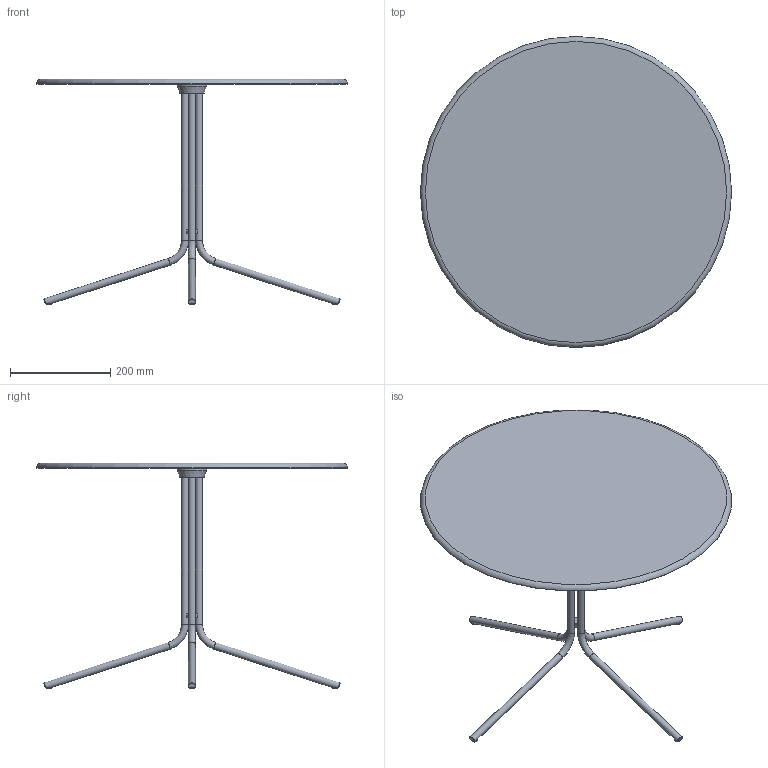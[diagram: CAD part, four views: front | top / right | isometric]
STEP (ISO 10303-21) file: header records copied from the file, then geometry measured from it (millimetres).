
FILE_DESCRIPTION((''),'2;1');
FILE_NAME('C:\AutodeskVault\AreaLavoro\Progetti\SoVeT Italia\2. Tavolini_Coffee tables\Genius\Genius Round\Web file\Genius Round Web\P4706.stp','2012-06-19T12:03:37',('Gianluca'),('So.Ve.T. s.r.l.'),'Autodesk Inventor 2013','Autodesk Inventor 2013','IL PROGETTO E'' DI ESCLUSIVA PROPRIETA'' DELLA SO.VE.T. srl. E'' VIETATA OGNI RIPRODUZIONE TOTALE O PARZIALE E QUALSIASI UTILIZZO NON AUTORIZZATO. ');
FILE_SCHEMA(('AUTOMOTIVE_DESIGN { 1 0 10303 214 1 1 1 1 }'));
Length unit declared in the file: millimetre
Products named in the file (1): P4706 LCTR Contorno semplificato
Bounding box: 620 x 620 x 450 mm (x, y, z)
Volume: 3398866.2 mm3; surface area: 724132.7 mm2
Topology: 1 solids, 1 shells, 68 faces, 193 edges, 122 vertices
Faces by surface type: plane 21, cylinder 17, cone 15, torus 11, sphere 4
Full cylindrical faces by diameter (mm): 10 x4, 14 x8, 58 x1
Entity records: 1972 total; most frequent: CARTESIAN_POINT 419, DIRECTION 316, ORIENTED_EDGE 258, AXIS2_PLACEMENT_3D 150, EDGE_CURVE 129, EDGE_LOOP 104, VERTEX_POINT 93, CIRCLE 69
